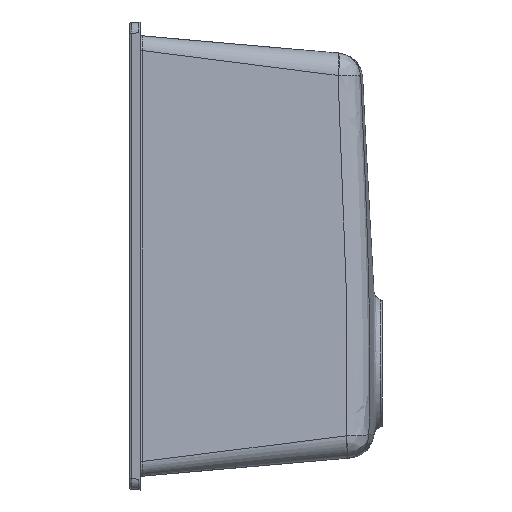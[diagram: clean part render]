
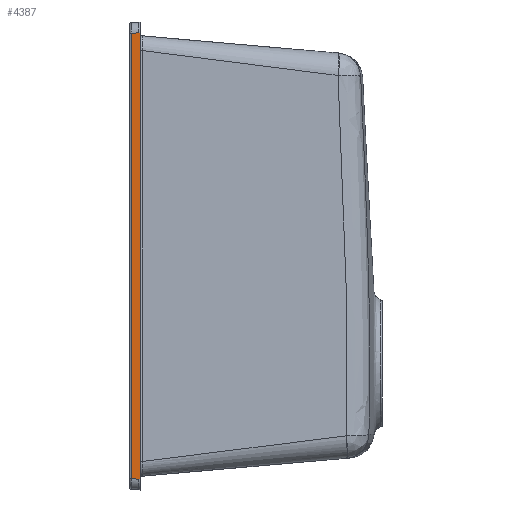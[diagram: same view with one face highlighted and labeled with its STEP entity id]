
A CAD part, left-side view. The second image highlights one B-rep face of the part: STEP entity #4387.
In plain terms, the highlighted planar face has unit normal (-0.998, 0.07, 0).
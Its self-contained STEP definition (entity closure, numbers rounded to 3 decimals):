
#110 = EDGE_CURVE ( 'NONE', #7587, #17546, #2403, .T. ) ;
#1210 = LINE ( 'NONE', #15259, #11238 ) ;
#1320 = DIRECTION ( 'NONE',  ( 0., 0., -1. ) ) ;
#1595 = PLANE ( 'NONE',  #17063 ) ;
#1650 = DIRECTION ( 'NONE',  ( -0.07, -0.995, 0.07 ) ) ;
#2403 = LINE ( 'NONE', #14111, #12429 ) ;
#2949 = DIRECTION ( 'NONE',  ( -0.07, -0.998, 0. ) ) ;
#3026 = EDGE_LOOP ( 'NONE', ( #15176, #4957, #16565, #7499, #7267, #6806 ) ) ;
#3173 = VERTEX_POINT ( 'NONE', #15396 ) ;
#3268 = CARTESIAN_POINT ( 'NONE',  ( -379.411, 8.419, 224.436 ) ) ;
#3338 = VERTEX_POINT ( 'NONE', #7319 ) ;
#4387 = ADVANCED_FACE ( 'NONE', ( #15371 ), #1595, .F. ) ;
#4687 = CARTESIAN_POINT ( 'NONE',  ( -379.411, 8.419, 224.436 ) ) ;
#4957 = ORIENTED_EDGE ( 'NONE', *, *, #11964, .F. ) ;
#5263 = VERTEX_POINT ( 'NONE', #13161 ) ;
#6430 = LINE ( 'NONE', #3268, #10712 ) ;
#6646 = VECTOR ( 'NONE', #1320, 1000. ) ;
#6806 = ORIENTED_EDGE ( 'NONE', *, *, #9127, .F. ) ;
#7267 = ORIENTED_EDGE ( 'NONE', *, *, #110, .F. ) ;
#7319 = CARTESIAN_POINT ( 'NONE',  ( -380., 0., 224.919 ) ) ;
#7499 = ORIENTED_EDGE ( 'NONE', *, *, #8939, .F. ) ;
#7512 = CARTESIAN_POINT ( 'NONE',  ( -380., 0., 224.919 ) ) ;
#7587 = VERTEX_POINT ( 'NONE', #17329 ) ;
#8245 = CARTESIAN_POINT ( 'NONE',  ( -380., 0., -200. ) ) ;
#8939 = EDGE_CURVE ( 'NONE', #17546, #16811, #1210, .T. ) ;
#9121 = CARTESIAN_POINT ( 'NONE',  ( -380., 0., -200. ) ) ;
#9127 = EDGE_CURVE ( 'NONE', #3173, #7587, #10752, .T. ) ;
#10675 = DIRECTION ( 'NONE',  ( 0.07, 0.998, 0. ) ) ;
#10712 = VECTOR ( 'NONE', #1650, 1000. ) ;
#10752 = LINE ( 'NONE', #13811, #16209 ) ;
#11238 = VECTOR ( 'NONE', #16859, 1000. ) ;
#11964 = EDGE_CURVE ( 'NONE', #5263, #3338, #13718, .T. ) ;
#12354 = CARTESIAN_POINT ( 'NONE',  ( -379.411, 8.419, -189.436 ) ) ;
#12392 = EDGE_CURVE ( 'NONE', #16811, #5263, #6430, .T. ) ;
#12429 = VECTOR ( 'NONE', #12722, 1000. ) ;
#12722 = DIRECTION ( 'NONE',  ( 0.07, 0.995, 0.07 ) ) ;
#13161 = CARTESIAN_POINT ( 'NONE',  ( -379.895, 1.5, 224.919 ) ) ;
#13718 = LINE ( 'NONE', #7512, #18455 ) ;
#13811 = CARTESIAN_POINT ( 'NONE',  ( -380., 0., -189.919 ) ) ;
#14111 = CARTESIAN_POINT ( 'NONE',  ( -380.048, -0.691, -190.073 ) ) ;
#14346 = EDGE_CURVE ( 'NONE', #3338, #3173, #19164, .T. ) ;
#15176 = ORIENTED_EDGE ( 'NONE', *, *, #14346, .F. ) ;
#15259 = CARTESIAN_POINT ( 'NONE',  ( -379.411, 8.419, -200. ) ) ;
#15371 = FACE_OUTER_BOUND ( 'NONE', #3026, .T. ) ;
#15396 = CARTESIAN_POINT ( 'NONE',  ( -380., 0., -189.919 ) ) ;
#15997 = DIRECTION ( 'NONE',  ( 0.998, -0.07, 0. ) ) ;
#16209 = VECTOR ( 'NONE', #10675, 1000. ) ;
#16565 = ORIENTED_EDGE ( 'NONE', *, *, #12392, .F. ) ;
#16811 = VERTEX_POINT ( 'NONE', #4687 ) ;
#16859 = DIRECTION ( 'NONE',  ( 0., 0., 1. ) ) ;
#17063 = AXIS2_PLACEMENT_3D ( 'NONE', #8245, #15997, #19216 ) ;
#17329 = CARTESIAN_POINT ( 'NONE',  ( -379.895, 1.5, -189.919 ) ) ;
#17546 = VERTEX_POINT ( 'NONE', #12354 ) ;
#18455 = VECTOR ( 'NONE', #2949, 1000. ) ;
#19164 = LINE ( 'NONE', #9121, #6646 ) ;
#19216 = DIRECTION ( 'NONE',  ( 0.07, 0.998, 0. ) ) ;
